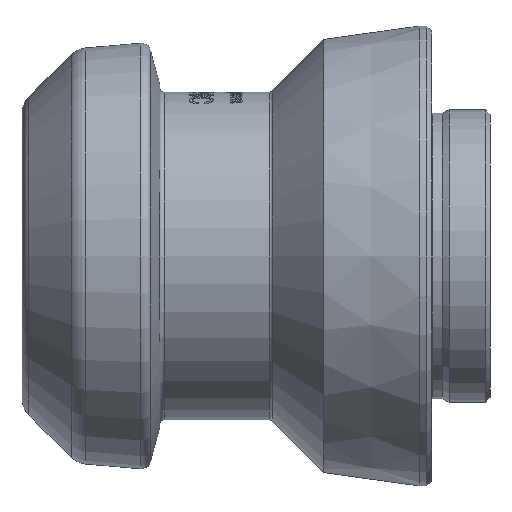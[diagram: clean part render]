
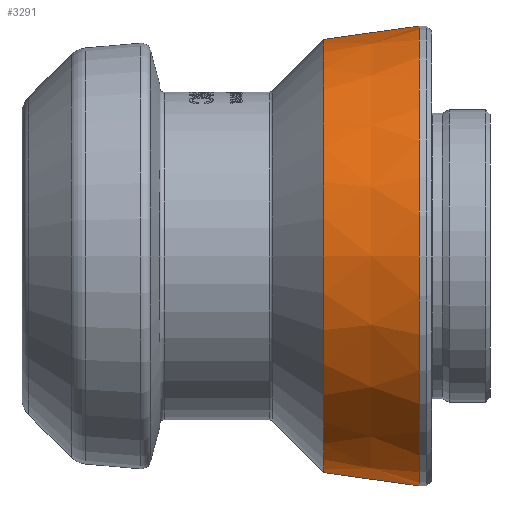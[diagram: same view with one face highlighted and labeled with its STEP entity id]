
A CAD part, front view. The second image highlights one B-rep face of the part: STEP entity #3291.
In plain terms, the highlighted conical face has half-angle 8 degrees and reference radius 19.65 mm.
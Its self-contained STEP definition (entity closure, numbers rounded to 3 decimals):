
#1 = CARTESIAN_POINT ( 'NONE',  ( -1.067, 0., 19.65 ) ) ;
#44 = DIRECTION ( 'NONE',  ( 1., 0., 0. ) ) ;
#1096 = CARTESIAN_POINT ( 'NONE',  ( -1.067, 0., 0. ) ) ;
#1137 = VECTOR ( 'NONE', #5611, 1000. ) ;
#1203 = CARTESIAN_POINT ( 'NONE',  ( -1.067, 0., -19.65 ) ) ;
#1566 = DIRECTION ( 'NONE',  ( 0., 0., -1. ) ) ;
#1632 = EDGE_CURVE ( 'NONE', #8381, #7380, #1725, .T. ) ;
#1725 = CIRCLE ( 'NONE', #8311, 19.65 ) ;
#1866 = DIRECTION ( 'NONE',  ( 0., 0., -1. ) ) ;
#2200 = ORIENTED_EDGE ( 'NONE', *, *, #5146, .T. ) ;
#2456 = CARTESIAN_POINT ( 'NONE',  ( -9.2, 0., 18.507 ) ) ;
#3288 = CIRCLE ( 'NONE', #8036, 18.507 ) ;
#3291 = ADVANCED_FACE ( 'NONE', ( #6333 ), #8631, .T. ) ;
#3706 = DIRECTION ( 'NONE',  ( 0., 0., -1. ) ) ;
#4282 = CARTESIAN_POINT ( 'NONE',  ( -9.2, 0., 0. ) ) ;
#4308 = CARTESIAN_POINT ( 'NONE',  ( -1.067, 0., -19.65 ) ) ;
#4344 = VECTOR ( 'NONE', #5336, 1000. ) ;
#4498 = AXIS2_PLACEMENT_3D ( 'NONE', #1096, #6964, #1866 ) ;
#4830 = ORIENTED_EDGE ( 'NONE', *, *, #6666, .F. ) ;
#5054 = ORIENTED_EDGE ( 'NONE', *, *, #5451, .T. ) ;
#5146 = EDGE_CURVE ( 'NONE', #6678, #5979, #3288, .T. ) ;
#5336 = DIRECTION ( 'NONE',  ( 0.99, 0., 0.139 ) ) ;
#5393 = CARTESIAN_POINT ( 'NONE',  ( -9.2, 0., -18.507 ) ) ;
#5438 = EDGE_LOOP ( 'NONE', ( #4830, #2200, #5054, #8453 ) ) ;
#5451 = EDGE_CURVE ( 'NONE', #5979, #7380, #7810, .T. ) ;
#5611 = DIRECTION ( 'NONE',  ( 0.99, 0., -0.139 ) ) ;
#5961 = LINE ( 'NONE', #6108, #4344 ) ;
#5979 = VERTEX_POINT ( 'NONE', #5393 ) ;
#6108 = CARTESIAN_POINT ( 'NONE',  ( -1.067, 0., 19.65 ) ) ;
#6333 = FACE_OUTER_BOUND ( 'NONE', #5438, .T. ) ;
#6570 = CARTESIAN_POINT ( 'NONE',  ( -1.067, 0., 0. ) ) ;
#6666 = EDGE_CURVE ( 'NONE', #6678, #8381, #5961, .T. ) ;
#6678 = VERTEX_POINT ( 'NONE', #2456 ) ;
#6964 = DIRECTION ( 'NONE',  ( 1., 0., 0. ) ) ;
#7330 = DIRECTION ( 'NONE',  ( 1., 0., 0. ) ) ;
#7380 = VERTEX_POINT ( 'NONE', #1203 ) ;
#7810 = LINE ( 'NONE', #4308, #1137 ) ;
#8036 = AXIS2_PLACEMENT_3D ( 'NONE', #4282, #44, #3706 ) ;
#8311 = AXIS2_PLACEMENT_3D ( 'NONE', #6570, #7330, #1566 ) ;
#8381 = VERTEX_POINT ( 'NONE', #1 ) ;
#8453 = ORIENTED_EDGE ( 'NONE', *, *, #1632, .F. ) ;
#8631 = CONICAL_SURFACE ( 'NONE', #4498, 19.65, 0.14 ) ;
